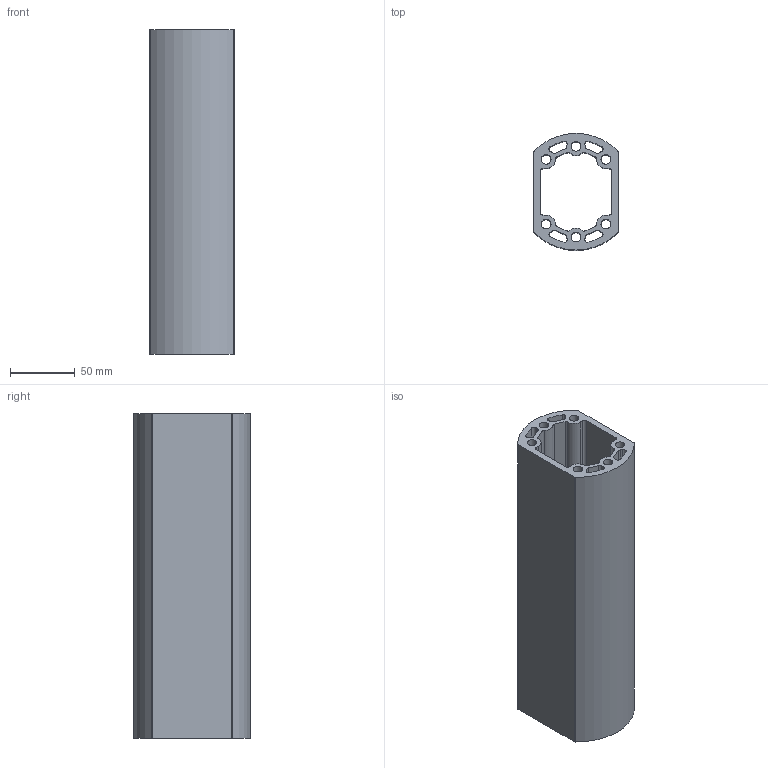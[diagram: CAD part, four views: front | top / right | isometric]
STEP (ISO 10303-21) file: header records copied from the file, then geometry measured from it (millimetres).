
FILE_DESCRIPTION((''),'2;1');
FILE_NAME('SCE-SA10TC','2018-12-04T12:39:57',('dougp'),('SAGINAW CONTROL & ENGINEERING'),'CREO PARAMETRIC BY PTC INC, 2017260','CREO PARAMETRIC BY PTC INC, 2017260','');
FILE_SCHEMA(('AUTOMOTIVE_DESIGN { 1 0 10303 214 1 1 1 1 }'));
Length unit declared in the file: inch
Products named in the file (1): SCE-SA10TC
Bounding box: 65 x 90 x 249.94 mm (x, y, z)
Volume: 502209.8 mm3; surface area: 193924.5 mm2
Topology: 1 solids, 1 shells, 82 faces, 240 edges, 160 vertices
Faces by surface type: cylinder 64, plane 18
Entity records: 2955 total; most frequent: DIRECTION 532, CARTESIAN_POINT 484, ORIENTED_EDGE 480, EDGE_CURVE 240, AXIS2_PLACEMENT_3D 210, VERTEX_POINT 160, CIRCLE 128, VECTOR 112
